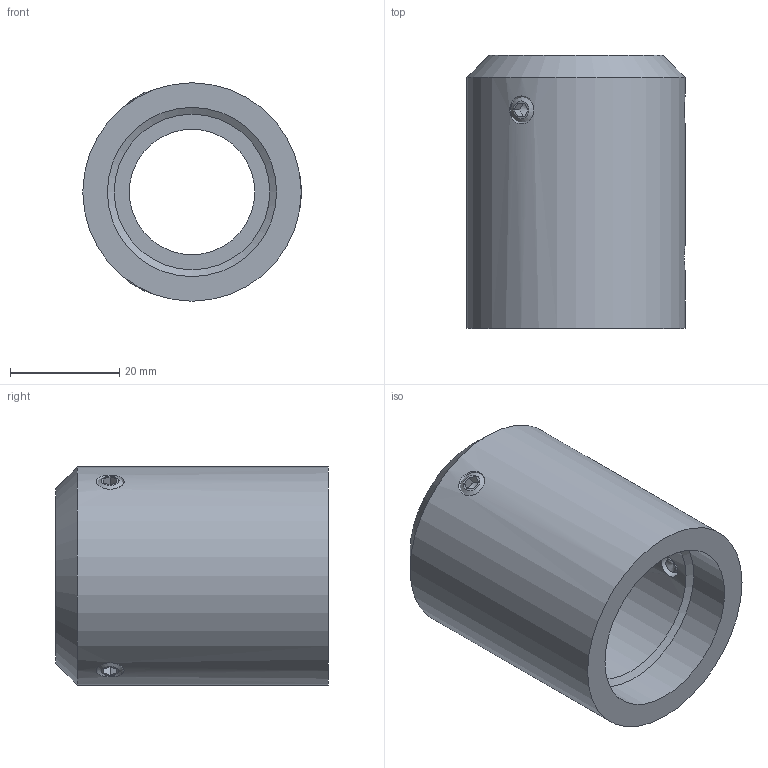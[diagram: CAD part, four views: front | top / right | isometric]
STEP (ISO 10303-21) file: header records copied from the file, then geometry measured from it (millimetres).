
FILE_DESCRIPTION(/* description */ (''),/* implementation_level */ '2;1');
FILE_NAME(/* name */ '3DCAD_TL305_AC_MF_25.stp',/* time_stamp */ '2024-11-12T15:32:36+01:00',/* author */ ('CC2'),/* organization */ ('Leuze electronic'),/* preprocessor_version */ 'ST-DEVELOPER v19.4',/* originating_system */ 'SIEMENS PLM Software NX2306.1700',/* authorisation */ '');
FILE_SCHEMA (('AUTOMOTIVE_DESIGN { 1 0 10303 214 3 1 1 1 }'));
Length unit declared in the file: millimetre
Products named in the file (1): 19-103798_00_1-3DCAD_TL305_AC_MF_25
Bounding box: 40 x 50 x 40 mm (x, y, z)
Volume: 32027 mm3; surface area: 12592.8 mm2
Topology: 5 solids, 5 shells, 91 faces, 197 edges, 112 vertices
Faces by surface type: plane 56, cone 18, cylinder 13, bspline 4
Full cylindrical faces by diameter (mm): 4.134 x4, 5 x4, 23 x1, 26 x1, 28.5 x1, 31 x1, 40 x1
Entity records: 4017 total; most frequent: CARTESIAN_POINT 2292, DIRECTION 350, ORIENTED_EDGE 270, AXIS2_PLACEMENT_3D 139, EDGE_CURVE 135, EDGE_LOOP 134, VERTEX_POINT 95, FACE_BOUND 94
